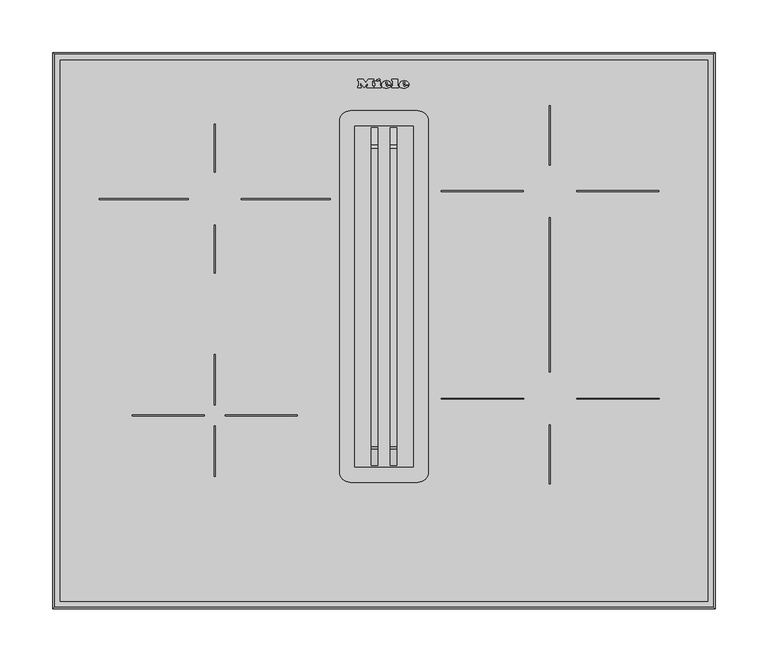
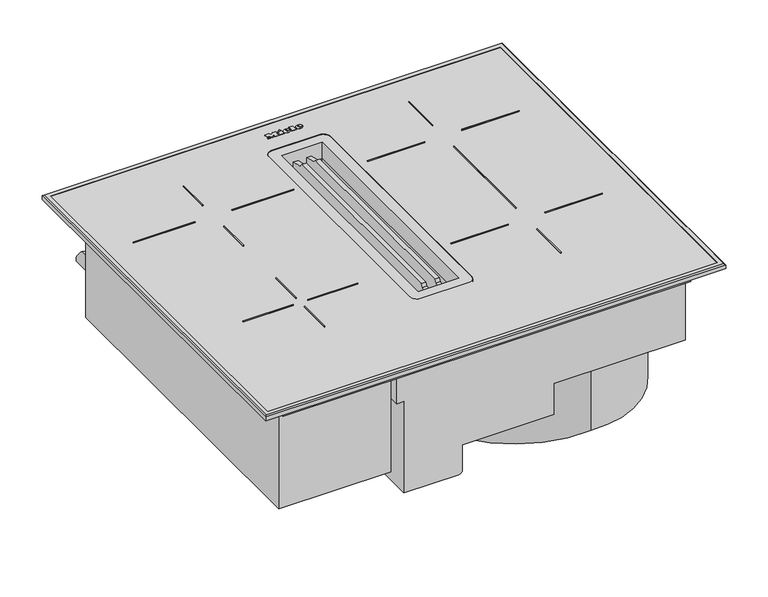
"""IFC4 building model written with IfcOpenShell, lengths in millimetres: proxy geometry, 13095120_D_KMDA5649FR : 26D56496_D_13095120_KMDA5649FR."""

from ifc_helpers import new_model, si_unit, point, frame, frame_2d, origin, place, context, project, spatial, polyline, circle_curve, ellipse_curve, trimmed, segment, composite_curve, outline, extrude, faceted_brep, source, transform, mapped, element, save
from ifc_brep_helpers import plane_surface, cylinder_surface, revolved_surface, extruded_surface, advanced_brep


def specialty_equipment_03b866f5(model_context):
    return source(origin(), model_context, "Body", "SolidModel", [
        extrude(outline(polyline([(-185.0231455, 388.2660958), (-185.0231455, 387.3745919), (-269.253587, 387.3745919), (-269.253587, 388.2660958), (-185.0231455, 388.2660958)])), frame((0.0, 0.0, 5.8), z_axis=(0.0, 0.0, 1.0), x_axis=(1.0, 0.0, 0.0)), (0.0, 0.0, 1.0), 1.0),
        extrude(outline(polyline([(-50.7511355, 388.2660958), (-50.7511355, 387.3745919), (-134.981577, 387.3745919), (-134.981577, 388.2660958), (-50.7511355, 388.2660958)])), frame((0.0, 0.0, 5.8), z_axis=(0.0, 0.0, 1.0), x_axis=(1.0, 0.0, 0.0)), (0.0, 0.0, 1.0), 1.0),
        extrude(outline(polyline([(-160.5088115, 413.0057875), (-160.5088115, 458.4962451), (-159.6889436, 458.4962451), (-159.6889436, 413.0057875), (-160.5088115, 413.0057875)])), frame((0.0, 0.0, 5.8), z_axis=(0.0, 0.0, 1.0), x_axis=(1.0, 0.0, 0.0)), (0.0, 0.0, 1.0), 1.0),
        extrude(outline(polyline([(-160.5088115, 317.5331558), (-160.5088115, 363.0236134), (-159.6889436, 363.0236134), (-159.6889436, 317.5331558), (-160.5088115, 317.5331558)])), frame((0.0, 0.0, 5.8), z_axis=(0.0, 0.0, 1.0), x_axis=(1.0, 0.0, 0.0)), (0.0, 0.0, 1.0), 1.0),
        extrude(outline(polyline([(-160.5088115, 192.963906), (-160.5088115, 240.5012596), (-159.6889436, 240.5012596), (-159.6889436, 192.963906), (-160.5088115, 192.963906)])), frame((0.0, 0.0, 5.8), z_axis=(0.0, 0.0, 1.0), x_axis=(1.0, 0.0, 0.0)), (0.0, 0.0, 1.0), 1.0),
        extrude(outline(polyline([(-160.5088115, 125.4905434), (-160.5088115, 173.0291789), (-159.6889436, 173.0291789), (-159.6889436, 125.4905434), (-160.5088115, 125.4905434)])), frame((0.0, 0.0, 5.8), z_axis=(0.0, 0.0, 1.0), x_axis=(1.0, 0.0, 0.0)), (0.0, 0.0, 1.0), 1.0),
        extrude(outline(polyline([(-170.0081079, 183.2663712), (-170.0081079, 182.3748673), (-238.0057352, 182.3748673), (-238.0057352, 183.2663712), (-170.0081079, 183.2663712)])), frame((0.0, 0.0, 5.8), z_axis=(0.0, 0.0, 1.0), x_axis=(1.0, 0.0, 0.0)), (0.0, 0.0, 1.0), 1.0),
        extrude(outline(polyline([(-81.9709245, 183.2663712), (-81.9709245, 182.3748673), (-150.0311368, 182.3748673), (-150.0311368, 183.2663712), (-81.9709245, 183.2663712)])), frame((0.0, 0.0, 5.8), z_axis=(0.0, 0.0, 1.0), x_axis=(1.0, 0.0, 0.0)), (0.0, 0.0, 1.0), 1.0),
        extrude(outline(polyline([(53.9676301, 395.454808), (131.7263568, 395.454808), (131.7263568, 394.5633041), (53.9676301, 394.5633041), (53.9676301, 395.454808)])), frame((0.0, 0.0, 5.8), z_axis=(0.0, 0.0, 1.0), x_axis=(1.0, 0.0, 0.0)), (0.0, 0.0, 1.0), 1.0),
        extrude(outline(polyline([(157.2535913, 420.0048626), (156.4337234, 420.0048626), (156.4337234, 476.0086376), (157.2535913, 476.0086376), (157.2535913, 420.0048626)])), frame((0.0, 0.0, 5.8), z_axis=(0.0, 0.0, 1.0), x_axis=(1.0, 0.0, 0.0)), (0.0, 0.0, 1.0), 1.0),
        extrude(outline(polyline([(181.9868936, 395.454808), (259.7456203, 395.454808), (259.7456203, 394.5633041), (181.9868936, 394.5633041), (181.9868936, 395.454808)])), frame((0.0, 0.0, 5.8), z_axis=(0.0, 0.0, 1.0), x_axis=(1.0, 0.0, 0.0)), (0.0, 0.0, 1.0), 1.0),
        extrude(outline(polyline([(156.4337234, 370.0175808), (157.2535913, 370.0175808), (157.2535913, 223.9830529), (156.4337234, 223.9830529), (156.4337234, 370.0175808)])), frame((0.0, 0.0, 5.8), z_axis=(0.0, 0.0, 1.0), x_axis=(1.0, 0.0, 0.0)), (0.0, 0.0, 1.0), 1.0),
        extrude(outline(polyline([(53.9907222, 199.2758393), (131.9846022, 199.2758393), (131.9846022, 198.3843354), (53.9907222, 198.3843354), (53.9907222, 199.2758393)])), frame((0.0, 0.0, 5.8), z_axis=(0.0, 0.0, 1.0), x_axis=(1.0, 0.0, 0.0)), (0.0, 0.0, 1.0), 1.0),
        extrude(outline(polyline([(182.2319594, 199.2758393), (259.9906861, 199.2758393), (259.9906861, 198.3843354), (182.2319594, 198.3843354), (182.2319594, 199.2758393)])), frame((0.0, 0.0, 5.8), z_axis=(0.0, 0.0, 1.0), x_axis=(1.0, 0.0, 0.0)), (0.0, 0.0, 1.0), 1.0),
        extrude(outline(polyline([(156.4337234, 173.969821), (157.2535913, 173.969821), (157.2535913, 118.0020284), (156.4337234, 118.0020284), (156.4337234, 173.969821)])), frame((0.0, 0.0, 5.8), z_axis=(0.0, 0.0, 1.0), x_axis=(1.0, 0.0, 0.0)), (0.0, 0.0, 1.0), 1.0),
        extrude(outline(polyline([(310.0, 523.0), (310.0, 3.0), (-310.0, 3.0), (-310.0, 523.0), (310.0, 523.0)]), holes=[composite_curve([segment(trimmed(circle_curve(frame_2d((32.0, 129.6999969)), 10.0), [point((32.0, 119.6999969))], [point((42.0, 129.6999969))], True, "CARTESIAN"), True, "CONTINUOUS"), segment(polyline([(42.0, 129.6999969), (42.0, 461.1999969)]), True, "CONTINUOUS"), segment(trimmed(circle_curve(frame_2d((32.0, 461.1999969)), 10.0), [point((42.0, 461.1999969))], [point((32.0, 471.1999969))], True, "CARTESIAN"), True, "CONTINUOUS"), segment(polyline([(32.0, 471.1999969), (-32.0, 471.1999969)]), True, "CONTINUOUS"), segment(trimmed(circle_curve(frame_2d((-32.0, 461.1999969)), 10.0), [point((-32.0, 471.1999969))], [point((-42.0, 461.1999969))], True, "CARTESIAN"), True, "CONTINUOUS"), segment(polyline([(-42.0, 461.1999969), (-42.0, 129.6999969)]), True, "CONTINUOUS"), segment(trimmed(circle_curve(frame_2d((-32.0, 129.6999969)), 10.0), [point((-42.0, 129.6999969))], [point((-32.0, 119.6999969))], True, "CARTESIAN"), True, "CONTINUOUS"), segment(polyline([(-32.0, 119.6999969), (32.0, 119.6999969)]), True, "CONTINUOUS")], self_intersect=False)]), frame((0.0, 0.0, 1.8), z_axis=(0.0, 0.0, 1.0), x_axis=(1.0, 0.0, 0.0)), (0.0, 0.0, 1.0), 4.0),
        faceted_brep([(313.0, 526.0, 0.0), (313.0, 526.0, 5.5), (313.0, 0.0, 5.5), (313.0, 0.0, 0.0), (311.5819244, 524.5819244, 5.4960776), (311.5819244, 524.5819244, 0.0), (311.5819244, 1.4180756, 0.0), (311.5819244, 1.4180756, 5.4960776), (306.0, 519.0, 7.0), (306.0, 519.0, 5.4960776), (306.0, 7.0, 5.4960776), (306.0, 7.0, 7.0), (311.5, 524.5, 7.0), (311.5, 1.5, 7.0), (-313.0, 0.0, 5.5), (-313.0, 0.0, 0.0), (-311.5819244, 1.4180756, 0.0), (-311.5819244, 1.4180756, 5.4960776), (-306.0, 7.0, 5.4960776), (-306.0, 7.0, 7.0), (-311.5, 1.5, 7.0), (-313.0, 526.0, 5.5), (-313.0, 526.0, 0.0), (-311.5819244, 524.5819244, 0.0), (-311.5819244, 524.5819244, 5.4960776), (-306.0, 519.0, 5.4960776), (-306.0, 519.0, 7.0), (-311.5, 524.5, 7.0)], [[[0, 1, 2, 3]], [[4, 5, 6, 7]], [[8, 9, 10, 11]], [[1, 12, 13, 2]], [[3, 2, 14, 15]], [[7, 6, 16, 17]], [[11, 10, 18, 19]], [[2, 13, 20, 14]], [[15, 14, 21, 22]], [[17, 16, 23, 24]], [[19, 18, 25, 26]], [[14, 20, 27, 21]], [[22, 21, 1, 0]], [[3, 15, 22, 0], [5, 23, 16, 6]], [[24, 23, 5, 4]], [[7, 17, 24, 4], [9, 25, 18, 10]], [[26, 25, 9, 8]], [[12, 27, 20, 13], [11, 19, 26, 8]], [[21, 27, 12, 1]]]),
        extrude(outline(composite_curve([segment(trimmed(circle_curve(frame_2d((-97.5499878, -262.3920059)), 8.0), [point((-89.5499878, -262.3920059))], [point((-105.5499878, -262.3920059))], False, "CARTESIAN"), True, "CONTINUOUS"), segment(trimmed(circle_curve(frame_2d((-97.5499878, -262.3920059)), 8.0), [point((-105.5499878, -262.3920059))], [point((-89.5499878, -262.3920059))], False, "CARTESIAN"), True, "CONTINUOUS")], self_intersect=False)), frame((0.0, 490.2997641, 0.0), z_axis=(0.0, 1.0, 0.0), x_axis=(0.0, 0.0, 1.0)), (0.0, 0.0, 1.0), 30.0),
        extrude(outline(polyline([(-101.5499878, -256.4901977), (-93.513483, -256.4901977), (-93.513483, -262.2664355), (-94.5180461, -262.2664355), (-94.5180461, -257.4947608), (-96.9038834, -257.4947608), (-96.9038834, -262.0152948), (-97.9084466, -262.0152948), (-97.9084466, -257.4947608), (-100.5454247, -257.4947608), (-100.5454247, -262.3920059), (-101.5499878, -262.3920059), (-101.5499878, -256.4901977)])), frame((0.0, 520.2997641, 0.0), z_axis=(0.0, 1.0, 0.0), x_axis=(0.0, 0.0, 1.0)), (0.0, 0.0, 1.0), 1.0),
        extrude(outline(polyline([(-101.5499878, -263.8988506), (-93.513483, -263.8988506), (-93.513483, -264.9034137), (-100.5454247, -264.9034137), (-100.5454247, -268.9216661), (-101.5499878, -268.9216661), (-101.5499878, -263.8988506)])), frame((0.0, 520.2997641, 0.0), z_axis=(0.0, 1.0, 0.0), x_axis=(0.0, 0.0, 1.0)), (0.0, 0.0, 1.0), 1.0),
        extrude(outline(polyline([(135.855793, -26.0644755), (135.855793, -8.7892649), (151.3794196, -4.6000061), (153.5794257, -0.6), (435.4785822, -0.6), (439.3785822, -4.5), (455.2872525, -8.7931659), (455.2872525, -26.0644755), (135.855793, -26.0644755)])), frame((6.0183469, 0.0, 0.0), z_axis=(1.0, 0.0, 0.0), x_axis=(0.0, 1.0, 0.0)), (0.0, 0.0, 1.0), 6.1876133),
        extrude(outline(polyline([(277.5, 505.0), (277.5, 21.0), (-277.5, 21.0), (-277.5, 505.0), (277.5, 505.0)]), holes=[polyline([(42.0, 471.1999969), (-42.0, 471.1999969), (-42.0, 119.6999969), (42.0, 119.6999969), (42.0, 471.1999969)])]), frame((0.0, 0.0, -18.7), z_axis=(0.0, 0.0, 1.0), x_axis=(1.0, 0.0, 0.0)), (0.0, 0.0, 1.0), 18.7),
        extrude(outline(polyline([(490.2997641, -161.7), (35.4997998, -161.7), (35.4997998, -18.7), (494.8999939, -18.7), (494.8999939, -22.7), (490.2997641, -22.7), (490.2997641, -161.7)])), frame((-274.5, 0.0, 0.0), z_axis=(1.0, 0.0, 0.0), x_axis=(0.0, 1.0, 0.0)), (0.0, 0.0, 1.0), 152.0),
        advanced_brep(
        [(-32.4952011, 22.0, -182.0499954), (-32.4952011, 22.0, -145.6324921), (91.658851, 22.0, -145.6324921), (91.658851, 22.0, -100.9499939), (270.7999878, 22.0, -100.9499939), (270.7999878, 22.0, -18.7), (-121.7377896, 22.0, -18.7), (-121.7377896, 22.0, -55.6346007), (-112.4711008, 22.0, -55.6346007), (-112.4711008, 22.0, -187.0499954), (-37.4952011, 22.0, -187.0499954), (-32.4952011, 503.779007, -182.0499954), (-37.4952011, 503.779007, -187.0499954), (-112.4711008, 503.779007, -187.0499954), (-112.4711008, 503.779007, -55.6346007), (-121.7377896, 503.779007, -55.6346007), (-121.7377896, 503.779007, -18.7), (270.7999878, 503.779007, -18.7), (270.7999878, 503.779007, -100.9499939), (110.0, 503.779007, -100.9499939), (110.0, 503.779007, -99.1499939), (-18.6499996, 503.779007, -99.1499939), (-18.6499996, 503.779007, -145.6324921), (-32.4952011, 503.779007, -145.6324921), (-18.6499996, 467.769162, -145.6324921), (-10.5056189, 467.769162, -145.6324921), (-10.5056189, 336.4911245, -145.6324921), (-24.5001772, 174.1566723, -145.6324921), (91.658851, 34.1794207, -145.6324921), (91.658851, 34.1794207, -100.9499939), (146.1124735, 29.0504496, -100.9499939), (270.7999878, 118.7628243, -100.9499939), (270.7999878, 216.4282673, -100.9499939), (229.3122977, 276.3279279, -100.9499939), (211.8034997, 300.2166013, -100.9499939), (211.8034997, 471.1999969, -100.9499939), (110.0, 471.1999969, -100.9499939), (-27.5, 456.6999969, -18.7), (27.5, 456.6999969, -18.7), (27.5, 134.1999969, -18.7), (-27.5, 134.1999969, -18.7), (-24.5001772, 174.1566723, -191.875824), (-10.5056189, 336.4911245, -191.875824), (-10.5056189, 471.1999969, -191.875824), (211.8034997, 471.1999969, -191.875824), (211.8034997, 300.2166013, -191.875824), (229.3122977, 276.3279279, -191.875824), (274.0794213, 157.4105099, -191.875824), (146.1124735, 29.0504496, -191.875824), (274.0794213, 157.4105099, -100.9499939), (-10.5056189, 471.1999969, -100.9499939), (-10.5056189, 467.769162, -100.9499939), (91.658851, 467.769162, -100.9499939), (110.0, 467.769162, -100.9499939), (-18.6499996, 467.769162, -99.1499939), (110.0, 467.769162, -99.1499939), (27.5, 456.6999969, -74.5751385), (-27.5, 456.6999969, -74.5751385), (-27.5, 134.1999969, -74.5751385), (27.5, 134.1999969, -74.5751385)],
        [
            (0, 1),
            (1, 2),
            (2, 3),
            (3, 4),
            (4, 5),
            (5, 6),
            (6, 7),
            (7, 8),
            (8, 9),
            (9, 10),
            (10, 0, circle_curve(frame((-37.4952011, 22.0, -182.0499954), z_axis=(0.0, -1.0, 0.0), x_axis=(1.0, 0.0, 0.0)), 5.0)),
            (11, 12, circle_curve(frame((-37.4952011, 503.779007, -182.0499954), z_axis=(0.0, 1.0, 0.0), x_axis=(1.0, 0.0, 0.0)), 5.0)),
            (12, 13),
            (13, 14),
            (14, 15),
            (15, 16),
            (16, 17),
            (17, 18),
            (18, 19),
            (19, 20),
            (20, 21),
            (21, 22),
            (22, 23),
            (23, 11),
            (0, 11),
            (23, 1),
            (22, 24),
            (24, 25),
            (25, 26),
            (26, 27, circle_curve(frame((461.6691765, 214.0153439, -145.6324921), z_axis=(0.0, 0.0, 1.0), x_axis=(1.0, 0.0, 0.0)), 487.8005271)),
            (27, 28, circle_curve(frame((133.5319768, 187.1129635, -145.6324921), z_axis=(0.0, 0.0, 1.0), x_axis=(1.0, 0.0, 0.0)), 158.5623764)),
            (28, 2),
            (28, 29),
            (29, 3),
            (29, 30, circle_curve(frame((133.5319768, 187.1129635, -100.9499939), z_axis=(0.0, 0.0, 1.0), x_axis=(1.0, 0.0, 0.0)), 158.5623764)),
            (30, 31, circle_curve(frame((155.1159176, 148.0421291, -100.9499939), z_axis=(0.0, 0.0, 1.0), x_axis=(1.0, 0.0, 0.0)), 119.3318138)),
            (31, 4),
            (18, 32),
            (32, 33, circle_curve(frame((154.7697154, 180.3808326, -100.9499939), z_axis=(0.0, 0.0, 1.0), x_axis=(1.0, 0.0, 0.0)), 121.5007887)),
            (33, 34),
            (34, 35),
            (35, 36),
            (36, 19),
            (31, 32),
            (17, 5),
            (16, 6),
            (37, 38),
            (38, 39),
            (39, 40),
            (40, 37),
            (15, 7),
            (14, 8),
            (13, 9),
            (12, 10),
            (41, 42, circle_curve(frame((461.6691765, 214.0153439, -191.875824), z_axis=(0.0, 0.0, -1.0), x_axis=(1.0, 0.0, 0.0)), 487.8005271)),
            (42, 43),
            (43, 44),
            (44, 45),
            (45, 46),
            (46, 47, circle_curve(frame((154.7697154, 180.3808326, -191.875824), z_axis=(0.0, 0.0, -1.0), x_axis=(1.0, 0.0, 0.0)), 121.5007887)),
            (47, 48, circle_curve(frame((155.1159176, 148.0421291, -191.875824), z_axis=(0.0, 0.0, -1.0), x_axis=(1.0, 0.0, 0.0)), 119.3318138)),
            (48, 41, circle_curve(frame((133.5319768, 187.1129635, -191.875824), z_axis=(0.0, 0.0, -1.0), x_axis=(1.0, 0.0, 0.0)), 158.5623764)),
            (31, 49, circle_curve(frame((155.1159176, 148.0421291, -100.9499939), z_axis=(0.0, 0.0, 1.0), x_axis=(1.0, 0.0, 0.0)), 119.3318138)),
            (49, 32, circle_curve(frame((154.7697154, 180.3808326, -100.9499939), z_axis=(0.0, 0.0, 1.0), x_axis=(1.0, 0.0, 0.0)), 121.5007887)),
            (36, 50),
            (50, 51),
            (51, 52),
            (52, 53),
            (53, 36),
            (48, 30),
            (27, 41),
            (47, 49),
            (45, 34),
            (33, 46),
            (44, 35),
            (43, 50),
            (42, 26),
            (25, 51),
            (54, 55),
            (55, 53),
            (24, 54),
            (21, 54),
            (56, 57),
            (57, 58),
            (58, 59),
            (59, 56),
            (56, 38),
            (37, 57),
            (40, 58),
            (39, 59),
            (55, 20),
        ],
        [
            plane_surface(frame((-32.4952011, 22.0, -145.6324921), z_axis=(0.0, -1.0, 0.0), x_axis=(0.0, 0.0, 1.0))),
            plane_surface(frame((-32.4952011, 503.779007, -145.6324921), z_axis=(0.0, 1.0, 0.0), x_axis=(0.0, 0.0, -1.0))),
            plane_surface(frame((-32.4952011, 22.0, -182.0499954), z_axis=(1.0, 0.0, 0.0), x_axis=(0.0, 1.0, 0.0))),
            plane_surface(frame((-32.4952011, 22.0, -145.6324921), z_axis=(0.0, 0.0, -1.0), x_axis=(0.0, 1.0, 0.0))),
            plane_surface(frame((91.658851, 22.0, -145.6324921), z_axis=(1.0, 0.0, 0.0), x_axis=(0.0, 1.0, 0.0))),
            plane_surface(frame((91.658851, 22.0, -100.9499939), z_axis=(0.0, 0.0, -1.0), x_axis=(0.0, 1.0, 0.0))),
            plane_surface(frame((270.7999878, 22.0, -100.9499939), z_axis=(1.0, 0.0, 0.0), x_axis=(0.0, 1.0, 0.0))),
            plane_surface(frame((270.7999878, 22.0, -18.7), z_axis=(0.0, 0.0, 1.0), x_axis=(0.0, 1.0, 0.0))),
            plane_surface(frame((-121.7377896, 22.0, -18.7), z_axis=(-1.0, 0.0, 0.0), x_axis=(0.0, 1.0, 0.0))),
            plane_surface(frame((-121.7377896, 22.0, -55.6346007), z_axis=(0.0, 0.0, -1.0), x_axis=(0.0, 1.0, 0.0))),
            plane_surface(frame((-112.4711008, 22.0, -55.6346007), z_axis=(-1.0, 0.0, 0.0), x_axis=(0.0, 1.0, 0.0))),
            plane_surface(frame((-112.4711008, 22.0, -187.0499954), z_axis=(0.0, 0.0, -1.0), x_axis=(0.0, 1.0, 0.0))),
            cylinder_surface(frame((-37.4952011, 503.779007, -182.0499954), z_axis=(0.0, -1.0, 0.0), x_axis=(1.0, 0.0, 0.0)), 5.0),
            plane_surface(frame((292.0943532, 187.1129635, -191.875824), z_axis=(0.0, 0.0, -1.0), x_axis=(0.0, -1.0, 0.0))),
            plane_surface(frame((292.0943532, 187.1129635, -100.9499939), z_axis=(0.0, 0.0, 1.0), x_axis=(0.0, 1.0, 0.0))),
            cylinder_surface(frame((133.5319768, 187.1129635, -191.875824), z_axis=(0.0, 0.0, 1.0), x_axis=(1.0, 0.0, 0.0)), 158.5623764),
            cylinder_surface(frame((155.1159176, 148.0421291, -191.875824), z_axis=(0.0, 0.0, 1.0), x_axis=(1.0, 0.0, 0.0)), 119.3318138),
            plane_surface(frame((229.3122977, 276.3279279, -100.9499939), z_axis=(0.8065589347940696, 0.5911536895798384, 0.0), x_axis=(0.0, 0.0, -1.0))),
            plane_surface(frame((211.8034997, 300.2166013, -100.9499939), z_axis=(1.0, 0.0, 0.0), x_axis=(0.0, 0.0, -1.0))),
            plane_surface(frame((211.8034997, 471.1999969, -100.9499939), z_axis=(0.0, 1.0, 0.0), x_axis=(0.0, 0.0, -1.0))),
            plane_surface(frame((-10.5056189, 471.1999969, -100.9499939), z_axis=(-1.0, 0.0, 0.0), x_axis=(0.0, 0.0, -1.0))),
            cylinder_surface(frame((461.6691765, 214.0153439, -191.875824), z_axis=(0.0, 0.0, 1.0), x_axis=(1.0, 0.0, 0.0)), 487.8005271),
            cylinder_surface(frame((154.7697154, 180.3808326, -191.875824), z_axis=(0.0, 0.0, 1.0), x_axis=(1.0, 0.0, 0.0)), 121.5007887),
            plane_surface(frame((110.0, 467.769162, -154.7), z_axis=(0.0, 1.0, 0.0), x_axis=(0.0, 0.0, 1.0))),
            plane_surface(frame((-18.6499996, 467.769162, -99.1499939), z_axis=(1.0, 0.0, 0.0), x_axis=(0.0, 1.0, 0.0))),
            plane_surface(frame((-27.5, 456.6999969, -74.5751385), z_axis=(0.0, 0.0, 1.0), x_axis=(1.0, 0.0, 0.0))),
            plane_surface(frame((27.5, 456.6999969, 250.0), z_axis=(0.0, -1.0, 0.0), x_axis=(0.0, 0.0, -1.0))),
            plane_surface(frame((-27.5, 456.6999969, 250.0), z_axis=(1.0, 0.0, 0.0), x_axis=(0.0, 0.0, -1.0))),
            plane_surface(frame((-27.5, 134.1999969, 250.0), z_axis=(0.0, 1.0, 0.0), x_axis=(0.0, 0.0, -1.0))),
            plane_surface(frame((27.5, 134.1999969, 250.0), z_axis=(-1.0, 0.0, 0.0), x_axis=(0.0, 0.0, -1.0))),
            plane_surface(frame((110.0, 467.769162, -154.7), z_axis=(-1.0, 0.0, 0.0), x_axis=(0.0, 1.0, 0.0))),
            plane_surface(frame((110.0, 467.769162, -99.1499939), z_axis=(0.0, 0.0, -1.0), x_axis=(0.0, 1.0, 0.0))),
        ],
        [
            (0, [[1, 2, 3, 4, 5, 6, 7, 8, 9, 10, 11]]),
            (1, [[12, 13, 14, 15, 16, 17, 18, 19, 20, 21, 22, 23, 24]]),
            (2, [[-1, 25, -24, 26]]),
            (3, [[-2, -26, -23, 27, 28, 29, 30, 31, 32]]),
            (4, [[-3, -32, 33, 34]]),
            (5, [[-4, -34, 35, 36, 37]]),
            (5, [[-19, 38, 39, 40, 41, 42, 43]]),
            (6, [[-5, -37, 44, -38, -18, 45]]),
            (7, [[-6, -45, -17, 46], [47, 48, 49, 50]]),
            (8, [[-7, -46, -16, 51]]),
            (9, [[-8, -51, -15, 52]]),
            (10, [[-9, -52, -14, 53]]),
            (11, [[-10, -53, -13, 54]]),
            (12, [[-11, -54, -12, -25]]),
            (13, [[55, 56, 57, 58, 59, 60, 61, 62]]),
            (14, [[63, 64, -44]]),
            (14, [[65, 66, 67, 68, 69]]),
            (15, [[-62, 70, -35, -33, -31, 71]]),
            (16, [[-61, 72, -63, -36, -70]]),
            (17, [[-59, 73, -40, 74]]),
            (18, [[-58, 75, -41, -73]]),
            (19, [[-57, 76, -65, -42, -75]]),
            (20, [[-56, 77, -29, 78, -66, -76]]),
            (21, [[-55, -71, -30, -77]]),
            (22, [[-60, -74, -39, -64, -72]]),
            (23, [[79, 80, -68, -67, -78, -28, 81]]),
            (24, [[-81, -27, -22, 82]]),
            (25, [[83, 84, 85, 86]]),
            (26, [[-83, 87, -47, 88]]),
            (27, [[-84, -88, -50, 89]]),
            (28, [[-85, -89, -49, 90]]),
            (29, [[-86, -90, -48, -87]]),
            (30, [[-80, 91, -20, -43, -69]]),
            (31, [[-79, -82, -21, -91]]),
        ],
    ),
        extrude(outline(composite_curve([segment(trimmed(circle_curve(frame_2d((32.0, 461.1999969)), 10.0), [point((32.0, 471.1999969))], [point((42.0, 461.1999969))], False, "CARTESIAN"), True, "CONTINUOUS"), segment(polyline([(42.0, 461.1999969), (42.0, 129.6999969)]), True, "CONTINUOUS"), segment(trimmed(circle_curve(frame_2d((32.0, 129.6999969)), 10.0), [point((42.0, 129.6999969))], [point((32.0, 119.6999969))], False, "CARTESIAN"), True, "CONTINUOUS"), segment(polyline([(32.0, 119.6999969), (-32.0, 119.6999969)]), True, "CONTINUOUS"), segment(trimmed(circle_curve(frame_2d((-32.0, 129.6999969)), 10.0), [point((-32.0, 119.6999969))], [point((-42.0, 129.6999969))], False, "CARTESIAN"), True, "CONTINUOUS"), segment(polyline([(-42.0, 129.6999969), (-42.0, 461.1999969)]), True, "CONTINUOUS"), segment(trimmed(circle_curve(frame_2d((-32.0, 461.1999969)), 10.0), [point((-42.0, 461.1999969))], [point((-32.0, 471.1999969))], False, "CARTESIAN"), True, "CONTINUOUS"), segment(polyline([(-32.0, 471.1999969), (32.0, 471.1999969)]), True, "CONTINUOUS")], self_intersect=False), holes=[polyline([(-27.5, 134.1999969), (27.5, 134.1999969), (27.5, 456.6999969), (-27.5, 456.6999969), (-27.5, 134.1999969)])]), frame((0.0, 0.0, -18.5), z_axis=(0.0, 0.0, 1.0), x_axis=(1.0, 0.0, 0.0)), (0.0, 0.0, 1.0), 23.7190063),
        extrude(outline(polyline([(135.855793, -26.0644755), (135.855793, -8.7892649), (151.3794196, -4.6000061), (153.5794257, -0.6), (435.4785822, -0.6), (439.3785822, -4.5), (455.2872525, -8.7931659), (455.2872525, -26.0644755), (135.855793, -26.0644755)])), frame((-12.2059602, 0.0, 0.0), z_axis=(1.0, 0.0, 0.0), x_axis=(0.0, 1.0, 0.0)), (0.0, 0.0, 1.0), 6.1876133),
        extrude(outline(polyline([(-25.0, 499.696), (-25.0, 501.0), (-19.424, 501.0), (-17.08, 498.0), (-14.744, 501.0), (-9.872, 501.0), (-9.872, 499.696), (-10.888, 499.696), (-10.888, 494.344), (-9.872, 494.344), (-9.872, 493.0), (-16.256, 493.0), (-16.256, 494.344), (-15.272, 494.344), (-15.272, 497.8152223), (-18.864, 493.0), (-22.44, 497.7471247), (-22.44, 494.344), (-21.48, 494.344), (-21.48, 493.0), (-25.0, 493.0), (-25.0, 494.344), (-24.032, 494.344), (-24.032, 499.696), (-25.0, 499.696)])), frame((0.0, 0.0, 5.8), z_axis=(0.0, 0.0, 1.0), x_axis=(1.0, 0.0, 0.0)), (0.0, 0.0, 1.0), 1.0),
        extrude(outline(polyline([(7.464, 499.696), (7.464, 501.0), (12.968, 501.0), (12.968, 494.344), (13.952, 494.344), (13.952, 493.0), (7.464, 493.0), (7.464, 494.344), (8.424, 494.344), (8.424, 499.696), (7.464, 499.696)])), frame((0.0, 0.0, 5.8), z_axis=(0.0, 0.0, 1.0), x_axis=(1.0, 0.0, 0.0)), (0.0, 0.0, 1.0), 1.0),
        extrude(outline(polyline([(-7.08, 500.528), (-4.36, 501.792), (-3.76, 500.496), (-6.472, 499.232), (-7.08, 500.528)])), frame((0.0, 0.0, 5.8), z_axis=(0.0, 0.0, 1.0), x_axis=(1.0, 0.0, 0.0)), (0.0, 0.0, 1.0), 1.0),
        extrude(outline(polyline([(-9.056, 499.056), (-3.672, 499.056), (-3.672, 494.344), (-2.744, 494.344), (-2.744, 493.0), (-9.056, 493.0), (-9.056, 494.344), (-8.104, 494.344), (-8.104, 497.624), (-9.056, 497.624), (-9.056, 499.056)])), frame((0.0, 0.0, 5.8), z_axis=(0.0, 0.0, 1.0), x_axis=(1.0, 0.0, 0.0)), (0.0, 0.0, 1.0), 1.0),
        advanced_brep(
        [(1.664, 494.896, 6.8), (1.664, 495.704, 6.8), (7.016, 495.704, 6.8), (-2.296, 495.704, 6.8), (-0.096, 493.0, 6.8), (6.88, 494.896, 6.8), (4.464, 494.896, 6.8), (2.56, 494.0, 6.8), (1.664, 496.728, 6.8), (1.664, 497.6, 6.8), (3.032, 497.6, 6.8), (3.032, 496.728, 6.8), (1.664, 494.896, 5.8), (2.56, 494.0, 5.8), (4.464, 494.896, 5.8), (6.88, 494.896, 5.8), (-0.096, 493.0, 5.8), (-2.296, 495.704, 5.8), (7.016, 495.704, 5.8), (1.664, 495.704, 5.8), (1.664, 496.728, 5.8), (3.032, 496.728, 5.8), (3.032, 497.6, 5.8), (1.664, 497.6, 5.8)],
        [
            (0, 1),
            (1, 2),
            (2, 3, ellipse_curve(frame((2.36, 495.704, 6.8), z_axis=(0.0, 0.0, 1.0), x_axis=(-1.0, 0.0, 0.0)), 4.656, 3.848)),
            (3, 4, circle_curve(frame((0.8000436, 495.976, 6.8), z_axis=(0.0, 0.0, 1.0), x_axis=(0.0, -1.0, 0.0)), 3.1079688)),
            (4, 5, circle_curve(frame((2.2667936, 498.088, 6.8), z_axis=(0.0, 0.0, 1.0), x_axis=(0.0, -1.0, 0.0)), 5.6098607)),
            (5, 6),
            (6, 7, circle_curve(frame((2.9510588, 495.64, 6.8), z_axis=(0.0, 0.0, -1.0), x_axis=(0.0, -1.0, 0.0)), 1.6859795)),
            (7, 0, circle_curve(frame((2.56, 494.896, 6.8), z_axis=(0.0, 0.0, -1.0), x_axis=(0.0, -1.0, 0.0)), 0.896)),
            (8, 9),
            (9, 10, circle_curve(frame((2.348, 497.6, 6.8), z_axis=(0.0, 0.0, -1.0), x_axis=(0.0, -1.0, 0.0)), 0.684)),
            (10, 11),
            (11, 8),
            (12, 13, circle_curve(frame((2.56, 494.896, 5.8), z_axis=(0.0, 0.0, 1.0), x_axis=(0.0, -1.0, 0.0)), 0.896)),
            (13, 14, circle_curve(frame((2.9510588, 495.64, 5.8), z_axis=(0.0, 0.0, 1.0), x_axis=(0.0, -1.0, 0.0)), 1.6859795)),
            (14, 15),
            (15, 16, circle_curve(frame((2.2667936, 498.088, 5.8), z_axis=(0.0, 0.0, -1.0), x_axis=(0.0, -1.0, 0.0)), 5.6098607)),
            (16, 17, circle_curve(frame((0.8000436, 495.976, 5.8), z_axis=(0.0, 0.0, -1.0), x_axis=(0.0, -1.0, 0.0)), 3.1079688)),
            (17, 18, ellipse_curve(frame((2.36, 495.704, 5.8), z_axis=(0.0, 0.0, -1.0), x_axis=(-1.0, 0.0, 0.0)), 4.656, 3.848)),
            (18, 19),
            (19, 12),
            (20, 21),
            (21, 22),
            (22, 23, circle_curve(frame((2.348, 497.6, 5.8), z_axis=(0.0, 0.0, 1.0), x_axis=(0.0, -1.0, 0.0)), 0.684)),
            (23, 20),
            (0, 12),
            (19, 1),
            (18, 2),
            (5, 15),
            (14, 6),
            (17, 3),
            (13, 7),
            (16, 4),
            (8, 20),
            (23, 9),
            (22, 10),
            (21, 11),
        ],
        [
            plane_surface(frame((1.664, 495.704, 6.8), z_axis=(0.0, 0.0, 1.0), x_axis=(0.0, 1.0, 0.0))),
            plane_surface(frame((1.664, 495.704, 5.8), z_axis=(0.0, 0.0, -1.0), x_axis=(0.0, -1.0, 0.0))),
            plane_surface(frame((1.664, 494.896, 6.8), z_axis=(1.0, 0.0, 0.0), x_axis=(0.0, 0.0, -1.0))),
            plane_surface(frame((1.664, 495.704, 6.8), z_axis=(0.0, -1.0, 0.0), x_axis=(0.0, 0.0, -1.0))),
            plane_surface(frame((6.88, 494.896, 6.8), z_axis=(0.0, 1.0, 0.0), x_axis=(0.0, 0.0, -1.0))),
            extruded_surface(trimmed(ellipse_curve(frame((2.36, 495.704, 4.8), z_axis=(0.0, 0.0, 1.0), x_axis=(-1.0, 0.0, 0.0)), 4.656, 3.848), [point((7.016, 495.704, 4.8))], [point((-2.296, 495.704, 4.8))], True, "CARTESIAN"), (0.0, 0.0, 1.0), 1.0),
            revolved_surface(polyline([(2.9510588, 493.9540205, 5.8), (2.9510588, 493.9540205, 6.8)]), (2.9510588, 495.64, 5.8), (0.0, 0.0, -1.0)),
            revolved_surface(polyline([(2.56, 494.0, 5.8), (2.56, 494.0, 6.8)]), (2.56, 494.896, 5.8), (0.0, 0.0, -1.0)),
            cylinder_surface(frame((0.8000436, 495.976, 5.8), z_axis=(0.0, 0.0, 1.0), x_axis=(0.0, -1.0, 0.0)), 3.1079688),
            cylinder_surface(frame((2.2667936, 498.088, 5.8), z_axis=(0.0, 0.0, 1.0), x_axis=(0.0, -1.0, 0.0)), 5.6098607),
            plane_surface(frame((1.664, 496.728, 6.8), z_axis=(1.0, 0.0, 0.0), x_axis=(0.0, 0.0, -1.0))),
            revolved_surface(polyline([(2.348, 496.916, 5.8), (2.348, 496.916, 6.8)]), (2.348, 497.6, 5.8), (0.0, 0.0, -1.0)),
            plane_surface(frame((3.032, 497.6, 6.8), z_axis=(-1.0, 0.0, 0.0), x_axis=(0.0, 0.0, -1.0))),
            plane_surface(frame((3.032, 496.728, 6.8), z_axis=(0.0, 1.0, 0.0), x_axis=(0.0, 0.0, -1.0))),
        ],
        [
            (0, [[1, 2, 3, 4, 5, 6, 7, 8], [9, 10, 11, 12]]),
            (1, [[13, 14, 15, 16, 17, 18, 19, 20], [21, 22, 23, 24]]),
            (2, [[-1, 25, -20, 26]]),
            (3, [[-2, -26, -19, 27]]),
            (4, [[-6, 28, -15, 29]]),
            (5, [[-3, -27, -18, 30]]),
            (6, [[-7, -29, -14, 31]]),
            (7, [[-8, -31, -13, -25]]),
            (8, [[-4, -30, -17, 32]]),
            (9, [[-5, -32, -16, -28]]),
            (10, [[-9, 33, -24, 34]]),
            (11, [[-10, -34, -23, 35]]),
            (12, [[-11, -35, -22, 36]]),
            (13, [[-12, -36, -21, -33]]),
        ],
    ),
        advanced_brep(
        [(18.36, 494.896, 6.8), (18.36, 495.704, 6.8), (23.712, 495.704, 6.8), (14.4, 495.704, 6.8), (16.6, 493.0, 6.8), (23.576, 494.896, 6.8), (21.16, 494.896, 6.8), (19.256, 494.0, 6.8), (18.36, 496.728, 6.8), (18.36, 497.6, 6.8), (19.728, 497.6, 6.8), (19.728, 496.728, 6.8), (18.36, 494.896, 5.8), (19.256, 494.0, 5.8), (21.16, 494.896, 5.8), (23.576, 494.896, 5.8), (16.6, 493.0, 5.8), (14.4, 495.704, 5.8), (23.712, 495.704, 5.8), (18.36, 495.704, 5.8), (18.36, 496.728, 5.8), (19.728, 496.728, 5.8), (19.728, 497.6, 5.8), (18.36, 497.6, 5.8)],
        [
            (0, 1),
            (1, 2),
            (2, 3, ellipse_curve(frame((19.056, 495.704, 6.8), z_axis=(0.0, 0.0, 1.0), x_axis=(-1.0, 0.0, 0.0)), 4.656, 3.848)),
            (3, 4, circle_curve(frame((17.4960436, 495.976, 6.8), z_axis=(0.0, 0.0, 1.0), x_axis=(0.0, -1.0, 0.0)), 3.1079688)),
            (4, 5, circle_curve(frame((18.9627936, 498.088, 6.8), z_axis=(0.0, 0.0, 1.0), x_axis=(0.0, -1.0, 0.0)), 5.6098607)),
            (5, 6),
            (6, 7, circle_curve(frame((19.6470588, 495.64, 6.8), z_axis=(0.0, 0.0, -1.0), x_axis=(0.0, -1.0, 0.0)), 1.6859795)),
            (7, 0, circle_curve(frame((19.256, 494.896, 6.8), z_axis=(0.0, 0.0, -1.0), x_axis=(0.0, -1.0, 0.0)), 0.896)),
            (8, 9),
            (9, 10, circle_curve(frame((19.044, 497.6, 6.8), z_axis=(0.0, 0.0, -1.0), x_axis=(0.0, -1.0, 0.0)), 0.684)),
            (10, 11),
            (11, 8),
            (12, 13, circle_curve(frame((19.256, 494.896, 5.8), z_axis=(0.0, 0.0, 1.0), x_axis=(0.0, -1.0, 0.0)), 0.896)),
            (13, 14, circle_curve(frame((19.6470588, 495.64, 5.8), z_axis=(0.0, 0.0, 1.0), x_axis=(0.0, -1.0, 0.0)), 1.6859795)),
            (14, 15),
            (15, 16, circle_curve(frame((18.9627936, 498.088, 5.8), z_axis=(0.0, 0.0, -1.0), x_axis=(0.0, -1.0, 0.0)), 5.6098607)),
            (16, 17, circle_curve(frame((17.4960436, 495.976, 5.8), z_axis=(0.0, 0.0, -1.0), x_axis=(0.0, -1.0, 0.0)), 3.1079688)),
            (17, 18, ellipse_curve(frame((19.056, 495.704, 5.8), z_axis=(0.0, 0.0, -1.0), x_axis=(-1.0, 0.0, 0.0)), 4.656, 3.848)),
            (18, 19),
            (19, 12),
            (20, 21),
            (21, 22),
            (22, 23, circle_curve(frame((19.044, 497.6, 5.8), z_axis=(0.0, 0.0, 1.0), x_axis=(0.0, -1.0, 0.0)), 0.684)),
            (23, 20),
            (0, 12),
            (19, 1),
            (18, 2),
            (5, 15),
            (14, 6),
            (17, 3),
            (13, 7),
            (16, 4),
            (8, 20),
            (23, 9),
            (22, 10),
            (21, 11),
        ],
        [
            plane_surface(frame((18.36, 495.704, 6.8), z_axis=(0.0, 0.0, 1.0), x_axis=(0.0, 1.0, 0.0))),
            plane_surface(frame((18.36, 495.704, 5.8), z_axis=(0.0, 0.0, -1.0), x_axis=(0.0, -1.0, 0.0))),
            plane_surface(frame((18.36, 494.896, 6.8), z_axis=(1.0, 0.0, 0.0), x_axis=(0.0, 0.0, -1.0))),
            plane_surface(frame((18.36, 495.704, 6.8), z_axis=(0.0, -1.0, 0.0), x_axis=(0.0, 0.0, -1.0))),
            plane_surface(frame((23.576, 494.896, 6.8), z_axis=(0.0, 1.0, 0.0), x_axis=(0.0, 0.0, -1.0))),
            extruded_surface(trimmed(ellipse_curve(frame((19.056, 495.704, 4.8), z_axis=(0.0, 0.0, 1.0), x_axis=(-1.0, 0.0, 0.0)), 4.656, 3.848), [point((23.712, 495.704, 4.8))], [point((14.4, 495.704, 4.8))], True, "CARTESIAN"), (0.0, 0.0, 1.0), 1.0),
            revolved_surface(polyline([(19.6470588, 493.9540205, 5.8), (19.6470588, 493.9540205, 6.8)]), (19.6470588, 495.64, 5.8), (0.0, 0.0, -1.0)),
            revolved_surface(polyline([(19.256, 494.0, 5.8), (19.256, 494.0, 6.8)]), (19.256, 494.896, 5.8), (0.0, 0.0, -1.0)),
            cylinder_surface(frame((17.4960436, 495.976, 5.8), z_axis=(0.0, 0.0, 1.0), x_axis=(0.0, -1.0, 0.0)), 3.1079688),
            cylinder_surface(frame((18.9627936, 498.088, 5.8), z_axis=(0.0, 0.0, 1.0), x_axis=(0.0, -1.0, 0.0)), 5.6098607),
            plane_surface(frame((18.36, 496.728, 6.8), z_axis=(1.0, 0.0, 0.0), x_axis=(0.0, 0.0, -1.0))),
            revolved_surface(polyline([(19.044, 496.916, 5.8), (19.044, 496.916, 6.8)]), (19.044, 497.6, 5.8), (0.0, 0.0, -1.0)),
            plane_surface(frame((19.728, 497.6, 6.8), z_axis=(-1.0, 0.0, 0.0), x_axis=(0.0, 0.0, -1.0))),
            plane_surface(frame((19.728, 496.728, 6.8), z_axis=(0.0, 1.0, 0.0), x_axis=(0.0, 0.0, -1.0))),
        ],
        [
            (0, [[1, 2, 3, 4, 5, 6, 7, 8], [9, 10, 11, 12]]),
            (1, [[13, 14, 15, 16, 17, 18, 19, 20], [21, 22, 23, 24]]),
            (2, [[-1, 25, -20, 26]]),
            (3, [[-2, -26, -19, 27]]),
            (4, [[-6, 28, -15, 29]]),
            (5, [[-3, -27, -18, 30]]),
            (6, [[-7, -29, -14, 31]]),
            (7, [[-8, -31, -13, -25]]),
            (8, [[-4, -30, -17, 32]]),
            (9, [[-5, -32, -16, -28]]),
            (10, [[-9, 33, -24, 34]]),
            (11, [[-10, -34, -23, 35]]),
            (12, [[-11, -35, -22, 36]]),
            (13, [[-12, -36, -21, -33]]),
        ],
    ),
    ])


if __name__ == "__main__":
    model = new_model("IFC4")
    model_context = context("Model", 3, world=origin())
    ifc_project = project(units=[si_unit("LENGTHUNIT", "METRE", prefix="MILLI")], contexts=[model_context])
    site = spatial("IfcSite", under=ifc_project)
    building = spatial("IfcBuilding", under=site)
    placement = place(None, origin())
    specialty_equipment_shape = specialty_equipment_03b866f5(model_context)
    element("IfcBuildingElementProxy", 1, Name="13095120_D_KMDA5649FR : 26D56496_D_13095120_KMDA5649FR", ObjectType="13095120_D_KMDA5649FR : 26D56496_D_13095120_KMDA5649FR", at=placement, inside=building, context=model_context, shape_type="MappedRepresentation", body=[
        mapped(specialty_equipment_shape, transform((0.0, 0.0, 0.0), x_axis=(1.0, 0.0, 0.0), y_axis=(0.0, 1.0, 0.0), z_axis=(0.0, 0.0, 1.0))),
    ])
    save(model, "model.ifc")
